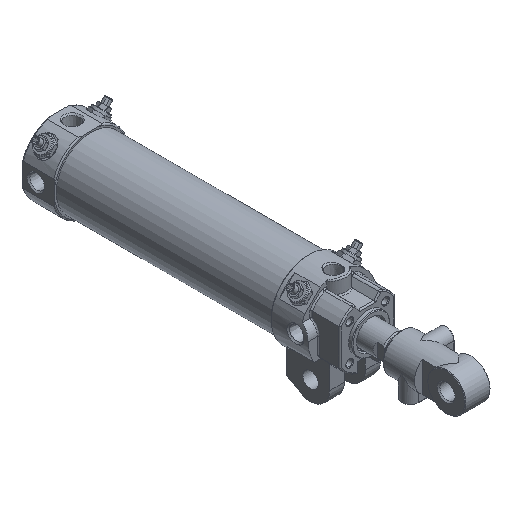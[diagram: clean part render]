
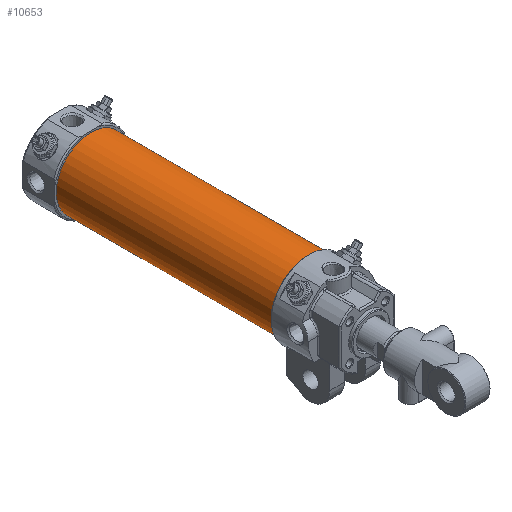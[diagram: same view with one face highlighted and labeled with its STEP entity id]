
A CAD part, isometric view. The second image highlights one B-rep face of the part: STEP entity #10653.
In plain terms, the highlighted cylindrical face has radius 27.5 mm (diameter 55 mm), a full revolution.
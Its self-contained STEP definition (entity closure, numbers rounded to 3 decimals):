
#2742=CARTESIAN_POINT('',(27.5,221.0,0.));
#2743=VERTEX_POINT('',#2742);
#2744=CARTESIAN_POINT('',(0.,221.0,0.));
#2745=DIRECTION('',(0.0,-1.0,0.0));
#2746=DIRECTION('',(-1.0,0.0,0.0));
#2747=AXIS2_PLACEMENT_3D('',#2744,#2745,#2746);
#2748=CIRCLE('',#2747,27.5);
#2749=EDGE_CURVE('',#2743,#2743,#2748,.T.);
#10630=CARTESIAN_POINT('',(27.5,50.,0.));
#10631=VERTEX_POINT('',#10630);
#10632=CARTESIAN_POINT('',(0.,50.,0.));
#10633=DIRECTION('',(0.0,-1.0,0.0));
#10634=DIRECTION('',(-1.0,0.0,0.0));
#10635=AXIS2_PLACEMENT_3D('',#10632,#10633,#10634);
#10636=CIRCLE('',#10635,27.5);
#10637=EDGE_CURVE('',#10631,#10631,#10636,.T.);
#10642=CARTESIAN_POINT('',(0.,50.,0.));
#10643=DIRECTION('',(0.0,1.0,0.));
#10644=DIRECTION('',(-1.0,0.0,0.0));
#10645=AXIS2_PLACEMENT_3D('',#10642,#10643,#10644);
#10646=CYLINDRICAL_SURFACE('',#10645,27.5);
#10647=ORIENTED_EDGE('',*,*,#2749,.T.);
#10648=EDGE_LOOP('',(#10647));
#10649=FACE_OUTER_BOUND('',#10648,.T.);
#10650=ORIENTED_EDGE('',*,*,#10637,.F.);
#10651=EDGE_LOOP('',(#10650));
#10652=FACE_BOUND('',#10651,.T.);
#10653=ADVANCED_FACE('',(#10649,#10652),#10646,.T.);
